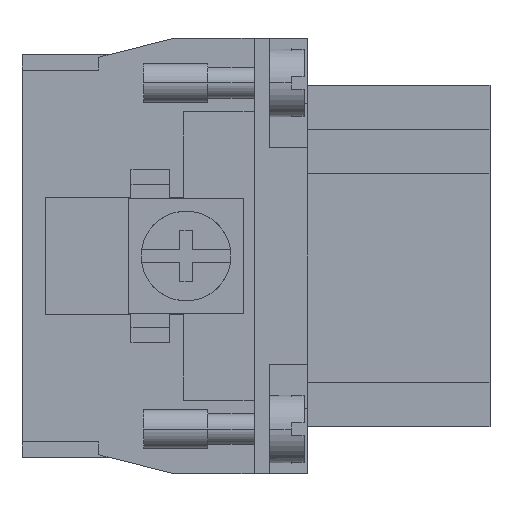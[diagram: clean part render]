
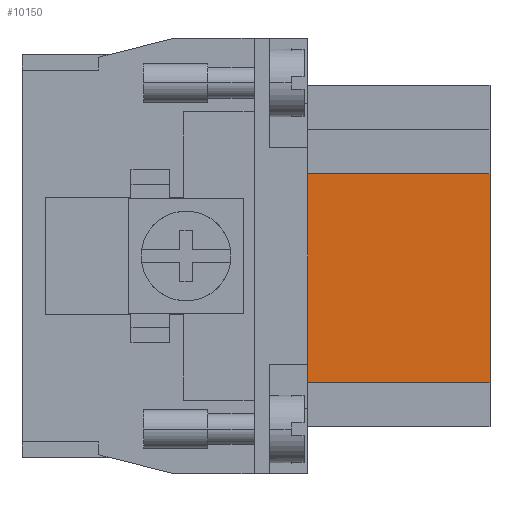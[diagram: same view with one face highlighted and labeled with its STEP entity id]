
A CAD part, left-side view. The second image highlights one B-rep face of the part: STEP entity #10150.
In plain terms, the highlighted planar face has unit normal (-1, 0, 0).
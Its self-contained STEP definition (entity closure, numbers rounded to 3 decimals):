
#1382 = VECTOR ( 'NONE', #12881, 1000. ) ;
#1818 = VERTEX_POINT ( 'NONE', #9034 ) ;
#2425 = CARTESIAN_POINT ( 'NONE',  ( -45.75, -34.574, 6.4 ) ) ;
#3125 = ORIENTED_EDGE ( 'NONE', *, *, #6380, .T. ) ;
#4197 = VECTOR ( 'NONE', #20321, 1000. ) ;
#4404 = CARTESIAN_POINT ( 'NONE',  ( -45.75, 0., 0. ) ) ;
#4597 = EDGE_CURVE ( 'NONE', #20040, #11058, #9848, .T. ) ;
#5723 = EDGE_CURVE ( 'NONE', #20745, #1818, #16502, .T. ) ;
#6380 = EDGE_CURVE ( 'NONE', #20040, #1818, #6529, .T. ) ;
#6529 = LINE ( 'NONE', #2425, #1382 ) ;
#8304 = CARTESIAN_POINT ( 'NONE',  ( -45.75, -14.2, 6.4 ) ) ;
#9034 = CARTESIAN_POINT ( 'NONE',  ( -45.75, 0., 6.4 ) ) ;
#9848 = LINE ( 'NONE', #13367, #4197 ) ;
#10150 = ADVANCED_FACE ( 'NONE', ( #13305 ), #13411, .F. ) ;
#10187 = DIRECTION ( 'NONE',  ( 0., 1., 0. ) ) ;
#11058 = VERTEX_POINT ( 'NONE', #18281 ) ;
#11169 = DIRECTION ( 'NONE',  ( 0., 0., 1. ) ) ;
#11687 = LINE ( 'NONE', #12700, #14103 ) ;
#11757 = CARTESIAN_POINT ( 'NONE',  ( -45.75, -34.574, 6.4 ) ) ;
#12019 = ORIENTED_EDGE ( 'NONE', *, *, #5723, .F. ) ;
#12700 = CARTESIAN_POINT ( 'NONE',  ( -45.75, -34.574, -9.9 ) ) ;
#12881 = DIRECTION ( 'NONE',  ( 0., 1., 0. ) ) ;
#13305 = FACE_OUTER_BOUND ( 'NONE', #18687, .T. ) ;
#13367 = CARTESIAN_POINT ( 'NONE',  ( -45.75, -14.2, 6.4 ) ) ;
#13411 = PLANE ( 'NONE',  #13898 ) ;
#13898 = AXIS2_PLACEMENT_3D ( 'NONE', #11757, #15089, #10187 ) ;
#14103 = VECTOR ( 'NONE', #17978, 1000. ) ;
#15089 = DIRECTION ( 'NONE',  ( 1., 0., 0. ) ) ;
#15152 = CARTESIAN_POINT ( 'NONE',  ( -45.75, 0., -9.9 ) ) ;
#16502 = LINE ( 'NONE', #4404, #21951 ) ;
#17389 = EDGE_CURVE ( 'NONE', #11058, #20745, #11687, .T. ) ;
#17864 = ORIENTED_EDGE ( 'NONE', *, *, #4597, .F. ) ;
#17978 = DIRECTION ( 'NONE',  ( 0., 1., 0. ) ) ;
#18281 = CARTESIAN_POINT ( 'NONE',  ( -45.75, -14.2, -9.9 ) ) ;
#18545 = ORIENTED_EDGE ( 'NONE', *, *, #17389, .F. ) ;
#18687 = EDGE_LOOP ( 'NONE', ( #12019, #18545, #17864, #3125 ) ) ;
#20040 = VERTEX_POINT ( 'NONE', #8304 ) ;
#20321 = DIRECTION ( 'NONE',  ( 0., 0., -1. ) ) ;
#20745 = VERTEX_POINT ( 'NONE', #15152 ) ;
#21951 = VECTOR ( 'NONE', #11169, 1000. ) ;
